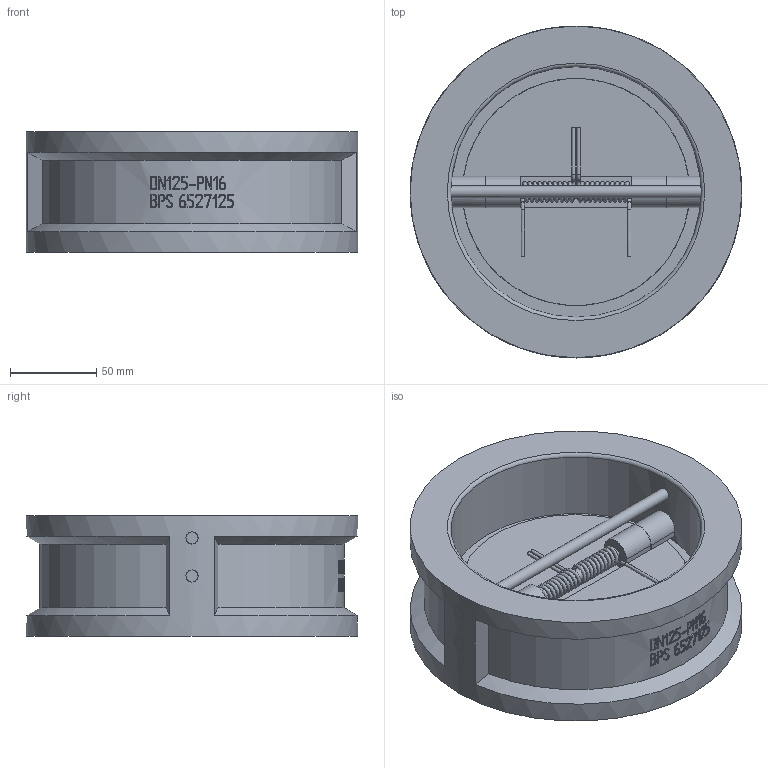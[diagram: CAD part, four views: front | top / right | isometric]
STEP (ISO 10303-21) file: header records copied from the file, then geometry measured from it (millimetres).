
FILE_DESCRIPTION( ( 'Unknown' ), '1' );
FILE_NAME( 'C:/Documents and Settings/Klaus/My Documents/Rootsi BPS 3D, Klaus/BPS 6527 double-door swing check valve/STEP/BPS6527125 double door swing check valve DN125.stp', 'Unknown', ( 'Unknown' ), ( 'Unknown' ), 'PSStep 10.1', 'Unknown', ' ' );
FILE_SCHEMA( ( 'AUTOMOTIVE_DESIGN { 1 0 10303 214 1 1 1 1 }' ) );
Length unit declared in the file: millimetre
Products named in the file (1): 1
Bounding box: 192 x 192 x 70 mm (x, y, z)
Volume: 1067865 mm3; surface area: 145005.7 mm2
Topology: 1 solids, 1 shells, 296 faces, 737 edges, 476 vertices
Faces by surface type: plane 131, bspline 94, cylinder 58, torus 7, cone 6
Full cylindrical faces by diameter (mm): 2 x6, 7 x4, 131.4 x1, 145 x1, 192 x1
Entity records: 21586 total; most frequent: CARTESIAN_POINT 13629, ORIENTED_EDGE 1390, EDGE_CURVE 695, DIRECTION 644, B_SPLINE_CURVE_WITH_KNOTS 531, VERTEX_POINT 464, EDGE_LOOP 371, FACE_OUTER_BOUND 322
